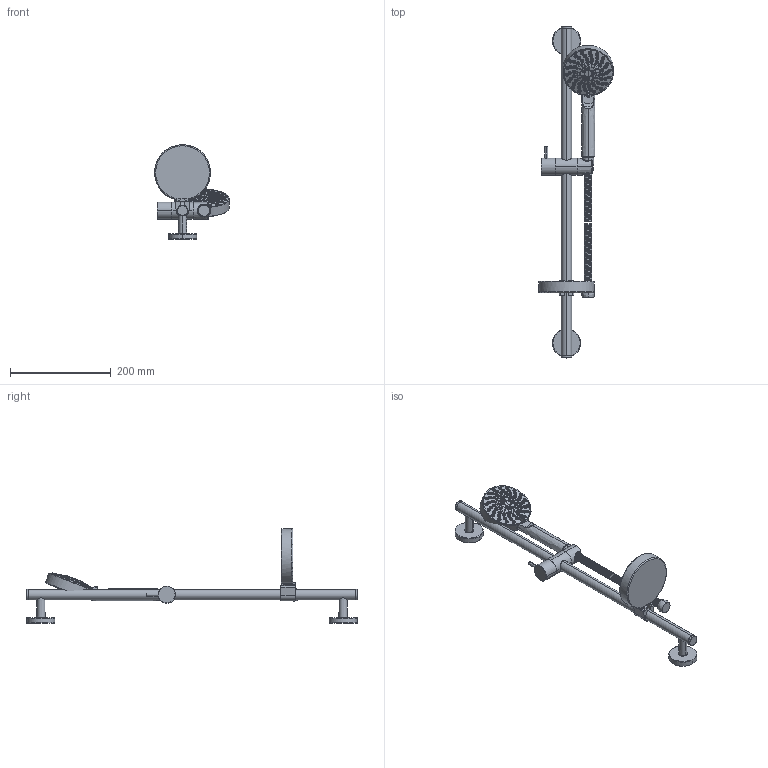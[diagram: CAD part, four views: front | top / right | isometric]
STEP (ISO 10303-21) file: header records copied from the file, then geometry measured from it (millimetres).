
FILE_DESCRIPTION((''),'2;1');
FILE_NAME('76504--00','2026-09-10T13:57:17',('simi1'),(''),'CREO PARAMETRIC BY PTC INC, 2022244','CREO PARAMETRIC BY PTC INC, 2022244','');
FILE_SCHEMA(('AUTOMOTIVE_DESIGN { 1 0 10303 214 1 1 1 1 }'));
Length unit declared in the file: millimetre
Products named in the file (1): 76504--00
Bounding box: 148.34 x 659 x 187.52 mm (x, y, z)
Surface area: 174816 mm2 (no closed solid volume)
Topology: 0 solids, 158 shells, 1184 faces, 3269 edges, 2150 vertices
Faces by surface type: bspline 560, cylinder 287, cone 148, plane 104, torus 68, sphere 8, revolution 6, extrusion 3
Entity records: 132802 total; most frequent: CARTESIAN_POINT 108413, ORIENTED_EDGE 5660, DIRECTION 3402, EDGE_CURVE 3263, VERTEX_POINT 2150, B_SPLINE_CURVE_WITH_KNOTS 1837, AXIS2_PLACEMENT_3D 1343, EDGE_LOOP 1184
